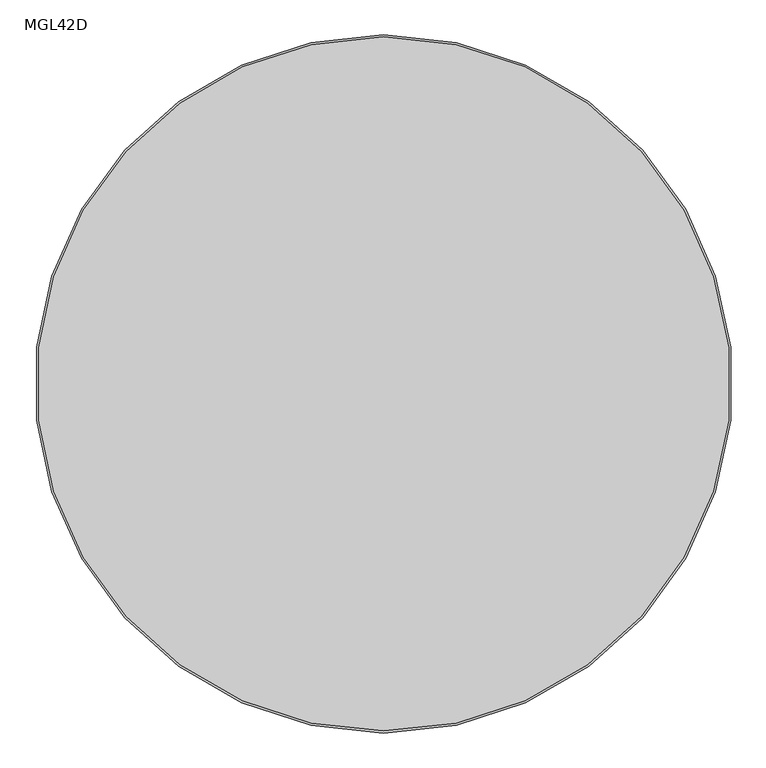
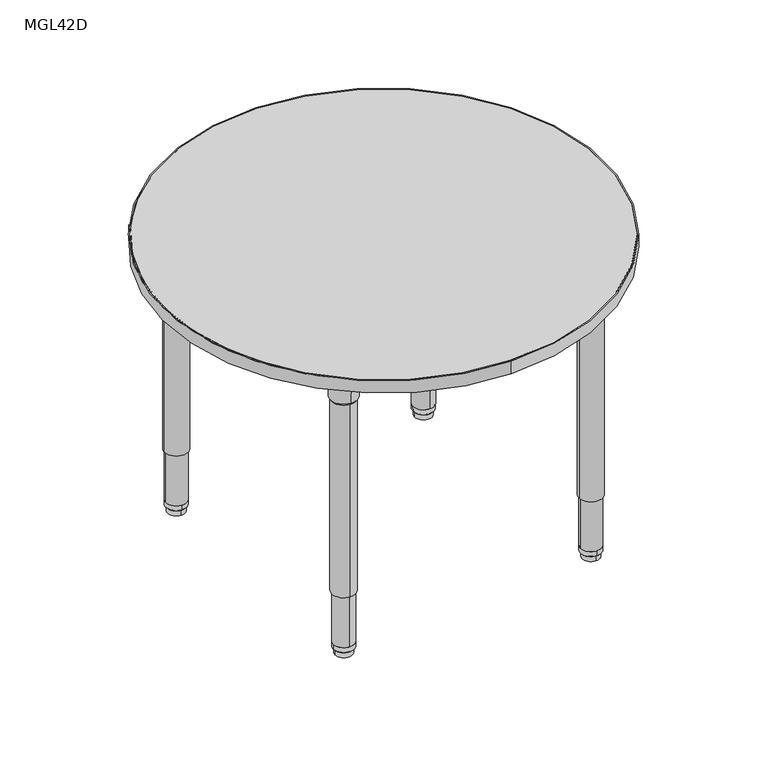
"""IFC4 building model written with IfcOpenShell, lengths in millimetres: furniture geometry, ERG-Mingle-Table-Round : MGL42D."""

from ifc_helpers import new_model, si_unit, point, frame, frame_2d, origin, origin_2d, place, context, project, spatial, polyline, circle_curve, trimmed, segment, composite_curve, outline, extrude, source, transform, mapped, element, save
from ifc_brep_helpers import plane_surface, cylinder_surface, revolved_surface, advanced_brep


def mgl42d_aba82845(model_context):
    return source(origin(), model_context, "Body", "SolidModel", [
        advanced_brep(
        [(303.5152635, -288.8684781, 650.5933069), (363.5858951, -288.8684781, 650.5933069), (333.5505793, -288.8684781, 650.5933069), (301.4066963, -288.8684781, 654.3580481), (365.6944624, -288.8684781, 654.3580481), (300.4712145, -288.8684781, 707.7631458), (366.6299442, -288.8684781, 707.7631458), (297.0216624, -288.8684781, 714.1198315), (370.0794963, -288.8684781, 714.1198315), (297.0216624, -288.8684781, 726.8198315), (370.0794963, -288.8684781, 726.8198315), (333.5505793, -288.8684781, 726.8198315)],
        [
            (0, 1, circle_curve(frame((333.5505793, -288.8684781, 650.5933069), z_axis=(0.0, 0.0, -1.0), x_axis=(1.0, 0.0, 0.0)), 30.0353158)),
            (1, 2),
            (2, 0),
            (1, 0, circle_curve(frame((333.5505793, -288.8684781, 650.5933069), z_axis=(0.0, 0.0, -1.0), x_axis=(1.0, 0.0, 0.0)), 30.0353158)),
            (3, 4, circle_curve(frame((333.5505793, -288.8684781, 654.3580481), z_axis=(0.0, 0.0, -1.0), x_axis=(1.0, 0.0, 0.0)), 32.143883)),
            (4, 1),
            (0, 3),
            (4, 3, circle_curve(frame((333.5505793, -288.8684781, 654.3580481), z_axis=(0.0, 0.0, -1.0), x_axis=(1.0, 0.0, 0.0)), 32.143883)),
            (5, 6, circle_curve(frame((333.5505793, -288.8684781, 707.7631458), z_axis=(0.0, 0.0, -1.0), x_axis=(1.0, 0.0, 0.0)), 33.0793649)),
            (6, 4),
            (3, 5),
            (6, 5, circle_curve(frame((333.5505793, -288.8684781, 707.7631458), z_axis=(0.0, 0.0, -1.0), x_axis=(1.0, 0.0, 0.0)), 33.0793649)),
            (7, 8, circle_curve(frame((333.5505793, -288.8684781, 714.1198315), z_axis=(0.0, 0.0, -1.0), x_axis=(1.0, 0.0, 0.0)), 36.528917)),
            (8, 6),
            (5, 7),
            (8, 7, circle_curve(frame((333.5505793, -288.8684781, 714.1198315), z_axis=(0.0, 0.0, -1.0), x_axis=(1.0, 0.0, 0.0)), 36.528917)),
            (9, 10, circle_curve(frame((333.5505793, -288.8684781, 726.8198315), z_axis=(0.0, 0.0, -1.0), x_axis=(1.0, 0.0, 0.0)), 36.528917)),
            (10, 8),
            (7, 9),
            (10, 9, circle_curve(frame((333.5505793, -288.8684781, 726.8198315), z_axis=(0.0, 0.0, -1.0), x_axis=(1.0, 0.0, 0.0)), 36.528917)),
            (11, 10),
            (9, 11),
        ],
        [
            plane_surface(frame((333.5505793, -288.8684781, 650.5933069), z_axis=(0.0, 0.0, -1.0), x_axis=(1.0, 0.0, 0.0))),
            revolved_surface(polyline([(363.5858951, -288.8684781, 650.5933069), (365.6944624, -288.8684781, 654.3580481)]), (333.5505793, -288.8684781, 726.8198315), (0.0, 0.0, 1.0)),
            revolved_surface(polyline([(365.6944624, -288.8684781, 654.3580481), (366.6299442, -288.8684781, 707.7631458)]), (333.5505793, -288.8684781, 726.8198315), (0.0, 0.0, 1.0)),
            revolved_surface(polyline([(366.6299442, -288.8684781, 707.7631458), (370.0794963, -288.8684781, 714.1198315)]), (333.5505793, -288.8684781, 726.8198315), (0.0, 0.0, 1.0)),
            cylinder_surface(frame((333.5505793, -288.8684781, 726.8198315), z_axis=(0.0, 0.0, 1.0), x_axis=(1.0, 0.0, 0.0)), 36.528917),
            plane_surface(frame((333.5505793, -288.8684781, 726.8198315), z_axis=(0.0, 0.0, 1.0), x_axis=(1.0, 0.0, 0.0))),
        ],
        [
            (0, [[1, 2, 3]]),
            (0, [[4, -3, -2]]),
            (1, [[5, 6, -1, 7]]),
            (1, [[8, -7, -4, -6]]),
            (2, [[9, 10, -5, 11]]),
            (2, [[12, -11, -8, -10]]),
            (3, [[13, 14, -9, 15]]),
            (3, [[16, -15, -12, -14]]),
            (4, [[17, 18, -13, 19]]),
            (4, [[20, -19, -16, -18]]),
            (5, [[21, -17, 22]]),
            (5, [[-22, -20, -21]]),
        ],
    ),
        extrude(outline(composite_curve([segment(polyline([(379.4243473, -206.2908207), (379.4243473, -320.0168535)]), True, "CONTINUOUS"), segment(trimmed(circle_curve(frame_2d((363.5493473, -320.0168535)), 15.875), [point((379.4243473, -320.0168535))], [point((363.5493473, -335.8918535))], False, "CARTESIAN"), True, "CONTINUOUS"), segment(polyline([(363.5493473, -335.8918535), (249.8369998, -335.8918535)]), True, "CONTINUOUS"), segment(trimmed(circle_curve(frame_2d((249.8369998, -323.1918535)), 12.7), [point((249.8369998, -335.8918535))], [point((237.1997717, -321.9307175))], False, "CARTESIAN"), True, "CONTINUOUS"), segment(trimmed(circle_curve(frame_2d((379.699187, -336.1514898)), 143.2072406), [point((237.1997717, -321.9307175))], [point((365.4617319, -193.6537402))], False, "CARTESIAN"), True, "CONTINUOUS"), segment(trimmed(circle_curve(frame_2d((366.7243473, -206.2908207)), 12.7), [point((365.4617319, -193.6537402))], [point((379.4243473, -206.2908207))], False, "CARTESIAN"), True, "CONTINUOUS")], self_intersect=False)), frame((0.0, 0.0, 726.8198315), z_axis=(0.0, 0.0, 1.0), x_axis=(1.0, 0.0, 0.0)), (0.0, 0.0, 1.0), 3.4301685),
        extrude(outline(composite_curve([segment(trimmed(circle_curve(frame_2d((333.5505793, -288.8684781)), 28.575), [point((362.1255793, -288.8684781))], [point((304.9755793, -288.8684781))], False, "CARTESIAN"), True, "CONTINUOUS"), segment(trimmed(circle_curve(frame_2d((333.5505793, -288.8684781)), 28.575), [point((304.9755793, -288.8684781))], [point((362.1255793, -288.8684781))], False, "CARTESIAN"), True, "CONTINUOUS")], self_intersect=False)), frame((0.0, 0.0, 158.3876979), z_axis=(0.0, 0.0, 1.0), x_axis=(1.0, 0.0, 0.0)), (0.0, 0.0, 1.0), 495.4089866),
        extrude(outline(composite_curve([segment(trimmed(circle_curve(frame_2d((333.5505793, -288.8684781)), 25.4), [point((358.9505793, -288.8684781))], [point((308.1505793, -288.8684781))], False, "CARTESIAN"), True, "CONTINUOUS"), segment(trimmed(circle_curve(frame_2d((333.5505793, -288.8684781)), 25.4), [point((308.1505793, -288.8684781))], [point((358.9505793, -288.8684781))], False, "CARTESIAN"), True, "CONTINUOUS")], self_intersect=False)), frame((0.0, 0.0, 28.9580435), z_axis=(0.0, 0.0, 1.0), x_axis=(1.0, 0.0, 0.0)), (0.0, 0.0, 1.0), 176.7049119),
        advanced_brep(
        [(333.5505793, -263.6334677, 28.9580185), (333.5505793, -314.1034885, 28.9580185), (333.5505793, -288.8684781, 28.9580185), (333.5505793, -263.7692391, 16.3032949), (333.5505793, -313.9677171, 16.3032949), (333.5505793, -265.2845399, 14.7291007), (333.5505793, -312.4524162, 14.7291007), (333.5505793, -267.7276203, 14.7291007), (333.5505793, -310.0093359, 14.7291007), (333.5505793, -267.9206117, 0.0), (333.5505793, -309.8163444, 0.0), (333.5505793, -288.8684781, 0.0)],
        [
            (0, 1, circle_curve(frame((333.5505793, -288.8684781, 28.9580185), z_axis=(0.0, 0.0, 1.0), x_axis=(0.0, -1.0, 0.0)), 25.2350104)),
            (1, 2),
            (2, 0),
            (1, 0, circle_curve(frame((333.5505793, -288.8684781, 28.9580185), z_axis=(0.0, 0.0, 1.0), x_axis=(0.0, -1.0, 0.0)), 25.2350104)),
            (3, 4, circle_curve(frame((333.5505793, -288.8684781, 16.3032949), z_axis=(0.0, 0.0, 1.0), x_axis=(0.0, -1.0, 0.0)), 25.099239)),
            (4, 1),
            (0, 3),
            (4, 3, circle_curve(frame((333.5505793, -288.8684781, 16.3032949), z_axis=(0.0, 0.0, 1.0), x_axis=(0.0, -1.0, 0.0)), 25.099239)),
            (5, 6, circle_curve(frame((333.5505793, -288.8684781, 14.7291007), z_axis=(0.0, 0.0, 1.0), x_axis=(0.0, -1.0, 0.0)), 23.5839381)),
            (6, 4),
            (3, 5),
            (6, 5, circle_curve(frame((333.5505793, -288.8684781, 14.7291007), z_axis=(0.0, 0.0, 1.0), x_axis=(0.0, -1.0, 0.0)), 23.5839381)),
            (7, 8, circle_curve(frame((333.5505793, -288.8684781, 14.7291007), z_axis=(0.0, 0.0, 1.0), x_axis=(0.0, -1.0, 0.0)), 21.1408578)),
            (8, 6),
            (5, 7),
            (8, 7, circle_curve(frame((333.5505793, -288.8684781, 14.7291007), z_axis=(0.0, 0.0, 1.0), x_axis=(0.0, -1.0, 0.0)), 21.1408578)),
            (9, 10, circle_curve(frame((333.5505793, -288.8684781, 0.0), z_axis=(0.0, 0.0, 1.0), x_axis=(0.0, -1.0, 0.0)), 20.9478664)),
            (10, 8),
            (7, 9),
            (10, 9, circle_curve(frame((333.5505793, -288.8684781, 0.0), z_axis=(0.0, 0.0, 1.0), x_axis=(0.0, -1.0, 0.0)), 20.9478664)),
            (11, 10),
            (9, 11),
        ],
        [
            plane_surface(frame((333.5505793, -288.8684781, 28.9580185), z_axis=(0.0, 0.0, 1.0), x_axis=(0.0, -1.0, 0.0))),
            revolved_surface(polyline([(333.5505793, -314.1034885, 28.9580185), (333.5505793, -313.9677171, 16.3032949)]), (333.5505793, -288.8684781, 0.0), (0.0, 0.0, -1.0)),
            revolved_surface(polyline([(333.5505793, -313.9677171, 16.3032949), (333.5505793, -312.4524162, 14.7291007)]), (333.5505793, -288.8684781, 0.0), (0.0, 0.0, -1.0)),
            plane_surface(frame((333.5505793, -288.8684781, 14.7291007), z_axis=(0.0, 0.0, -1.0), x_axis=(0.0, -1.0, 0.0))),
            revolved_surface(polyline([(333.5505793, -310.0093359, 14.7291007), (333.5505793, -309.8163444, 0.0)]), (333.5505793, -288.8684781, 0.0), (0.0, 0.0, -1.0)),
            plane_surface(frame((333.5505793, -288.8684781, 0.0), z_axis=(0.0, 0.0, -1.0), x_axis=(0.0, -1.0, 0.0))),
        ],
        [
            (0, [[1, 2, 3]]),
            (0, [[4, -3, -2]]),
            (1, [[5, 6, -1, 7]]),
            (1, [[8, -7, -4, -6]]),
            (2, [[9, 10, -5, 11]]),
            (2, [[12, -11, -8, -10]]),
            (3, [[13, 14, -9, 15]]),
            (3, [[16, -15, -12, -14]]),
            (4, [[17, 18, -13, 19]]),
            (4, [[20, -19, -16, -18]]),
            (5, [[21, -17, 22]]),
            (5, [[-22, -20, -21]]),
        ],
    ),
        advanced_brep(
        [(-288.8684781, -303.5152635, 650.5933069), (-288.8684781, -363.5858951, 650.5933069), (-288.8684781, -333.5505793, 650.5933069), (-288.8684781, -301.4066963, 654.3580481), (-288.8684781, -365.6944624, 654.3580481), (-288.8684781, -300.4712145, 707.7631458), (-288.8684781, -366.6299442, 707.7631458), (-288.8684781, -297.0216624, 714.1198315), (-288.8684781, -370.0794963, 714.1198315), (-288.8684781, -297.0216624, 726.8198315), (-288.8684781, -370.0794963, 726.8198315), (-288.8684781, -333.5505793, 726.8198315)],
        [
            (0, 1, circle_curve(frame((-288.8684781, -333.5505793, 650.5933069), z_axis=(0.0, 0.0, -1.0), x_axis=(0.0, -1.0, 0.0)), 30.0353158)),
            (1, 2),
            (2, 0),
            (1, 0, circle_curve(frame((-288.8684781, -333.5505793, 650.5933069), z_axis=(0.0, 0.0, -1.0), x_axis=(0.0, -1.0, 0.0)), 30.0353158)),
            (3, 4, circle_curve(frame((-288.8684781, -333.5505793, 654.3580481), z_axis=(0.0, 0.0, -1.0), x_axis=(0.0, -1.0, 0.0)), 32.143883)),
            (4, 1),
            (0, 3),
            (4, 3, circle_curve(frame((-288.8684781, -333.5505793, 654.3580481), z_axis=(0.0, 0.0, -1.0), x_axis=(0.0, -1.0, 0.0)), 32.143883)),
            (5, 6, circle_curve(frame((-288.8684781, -333.5505793, 707.7631458), z_axis=(0.0, 0.0, -1.0), x_axis=(0.0, -1.0, 0.0)), 33.0793649)),
            (6, 4),
            (3, 5),
            (6, 5, circle_curve(frame((-288.8684781, -333.5505793, 707.7631458), z_axis=(0.0, 0.0, -1.0), x_axis=(0.0, -1.0, 0.0)), 33.0793649)),
            (7, 8, circle_curve(frame((-288.8684781, -333.5505793, 714.1198315), z_axis=(0.0, 0.0, -1.0), x_axis=(0.0, -1.0, 0.0)), 36.528917)),
            (8, 6),
            (5, 7),
            (8, 7, circle_curve(frame((-288.8684781, -333.5505793, 714.1198315), z_axis=(0.0, 0.0, -1.0), x_axis=(0.0, -1.0, 0.0)), 36.528917)),
            (9, 10, circle_curve(frame((-288.8684781, -333.5505793, 726.8198315), z_axis=(0.0, 0.0, -1.0), x_axis=(0.0, -1.0, 0.0)), 36.528917)),
            (10, 8),
            (7, 9),
            (10, 9, circle_curve(frame((-288.8684781, -333.5505793, 726.8198315), z_axis=(0.0, 0.0, -1.0), x_axis=(0.0, -1.0, 0.0)), 36.528917)),
            (11, 10),
            (9, 11),
        ],
        [
            plane_surface(frame((-288.8684781, -333.5505793, 650.5933069), z_axis=(0.0, 0.0, -1.0), x_axis=(0.0, -1.0, 0.0))),
            revolved_surface(polyline([(-288.8684781, -363.5858951, 650.5933069), (-288.8684781, -365.6944624, 654.3580481)]), (-288.8684781, -333.5505793, 726.8198315), (0.0, 0.0, 1.0)),
            revolved_surface(polyline([(-288.8684781, -365.6944624, 654.3580481), (-288.8684781, -366.6299442, 707.7631458)]), (-288.8684781, -333.5505793, 726.8198315), (0.0, 0.0, 1.0)),
            revolved_surface(polyline([(-288.8684781, -366.6299442, 707.7631458), (-288.8684781, -370.0794963, 714.1198315)]), (-288.8684781, -333.5505793, 726.8198315), (0.0, 0.0, 1.0)),
            cylinder_surface(frame((-288.8684781, -333.5505793, 726.8198315), z_axis=(0.0, 0.0, 1.0), x_axis=(0.0, -1.0, 0.0)), 36.528917),
            plane_surface(frame((-288.8684781, -333.5505793, 726.8198315), z_axis=(0.0, 0.0, 1.0), x_axis=(0.0, -1.0, 0.0))),
        ],
        [
            (0, [[1, 2, 3]]),
            (0, [[4, -3, -2]]),
            (1, [[5, 6, -1, 7]]),
            (1, [[8, -7, -4, -6]]),
            (2, [[9, 10, -5, 11]]),
            (2, [[12, -11, -8, -10]]),
            (3, [[13, 14, -9, 15]]),
            (3, [[16, -15, -12, -14]]),
            (4, [[17, 18, -13, 19]]),
            (4, [[20, -19, -16, -18]]),
            (5, [[21, -17, 22]]),
            (5, [[-22, -20, -21]]),
        ],
    ),
        extrude(outline(composite_curve([segment(polyline([(-206.2908207, -379.4243473), (-320.0168535, -379.4243473)]), True, "CONTINUOUS"), segment(trimmed(circle_curve(frame_2d((-320.0168535, -363.5493473)), 15.875), [point((-320.0168535, -379.4243473))], [point((-335.8918535, -363.5493473))], False, "CARTESIAN"), True, "CONTINUOUS"), segment(polyline([(-335.8918535, -363.5493473), (-335.8918535, -249.8369998)]), True, "CONTINUOUS"), segment(trimmed(circle_curve(frame_2d((-323.1918535, -249.8369998)), 12.7), [point((-335.8918535, -249.8369998))], [point((-321.9307175, -237.1997717))], False, "CARTESIAN"), True, "CONTINUOUS"), segment(trimmed(circle_curve(frame_2d((-336.1514898, -379.699187)), 143.2072406), [point((-321.9307175, -237.1997717))], [point((-193.6537402, -365.4617319))], False, "CARTESIAN"), True, "CONTINUOUS"), segment(trimmed(circle_curve(frame_2d((-206.2908207, -366.7243473)), 12.7), [point((-193.6537402, -365.4617319))], [point((-206.2908207, -379.4243473))], False, "CARTESIAN"), True, "CONTINUOUS")], self_intersect=False)), frame((0.0, 0.0, 726.8198315), z_axis=(0.0, 0.0, 1.0), x_axis=(1.0, 0.0, 0.0)), (0.0, 0.0, 1.0), 3.4301685),
        extrude(outline(composite_curve([segment(trimmed(circle_curve(frame_2d((-288.8684781, -333.5505793)), 28.575), [point((-288.8684781, -362.1255793))], [point((-288.8684781, -304.9755793))], False, "CARTESIAN"), True, "CONTINUOUS"), segment(trimmed(circle_curve(frame_2d((-288.8684781, -333.5505793)), 28.575), [point((-288.8684781, -304.9755793))], [point((-288.8684781, -362.1255793))], False, "CARTESIAN"), True, "CONTINUOUS")], self_intersect=False)), frame((0.0, 0.0, 158.3876979), z_axis=(0.0, 0.0, 1.0), x_axis=(1.0, 0.0, 0.0)), (0.0, 0.0, 1.0), 495.4089866),
        extrude(outline(composite_curve([segment(trimmed(circle_curve(frame_2d((-288.8684781, -333.5505793)), 25.4), [point((-288.8684781, -358.9505793))], [point((-288.8684781, -308.1505793))], False, "CARTESIAN"), True, "CONTINUOUS"), segment(trimmed(circle_curve(frame_2d((-288.8684781, -333.5505793)), 25.4), [point((-288.8684781, -308.1505793))], [point((-288.8684781, -358.9505793))], False, "CARTESIAN"), True, "CONTINUOUS")], self_intersect=False)), frame((0.0, 0.0, 28.9580435), z_axis=(0.0, 0.0, 1.0), x_axis=(1.0, 0.0, 0.0)), (0.0, 0.0, 1.0), 176.7049119),
        advanced_brep(
        [(-263.6334677, -333.5505793, 28.9580185), (-314.1034885, -333.5505793, 28.9580185), (-288.8684781, -333.5505793, 28.9580185), (-263.7692391, -333.5505793, 16.3032949), (-313.9677171, -333.5505793, 16.3032949), (-265.2845399, -333.5505793, 14.7291007), (-312.4524162, -333.5505793, 14.7291007), (-267.7276203, -333.5505793, 14.7291007), (-310.0093359, -333.5505793, 14.7291007), (-267.9206117, -333.5505793, 0.0), (-309.8163444, -333.5505793, 0.0), (-288.8684781, -333.5505793, 0.0)],
        [
            (0, 1, circle_curve(frame((-288.8684781, -333.5505793, 28.9580185), z_axis=(0.0, 0.0, 1.0), x_axis=(-1.0, 0.0, 0.0)), 25.2350104)),
            (1, 2),
            (2, 0),
            (1, 0, circle_curve(frame((-288.8684781, -333.5505793, 28.9580185), z_axis=(0.0, 0.0, 1.0), x_axis=(-1.0, 0.0, 0.0)), 25.2350104)),
            (3, 4, circle_curve(frame((-288.8684781, -333.5505793, 16.3032949), z_axis=(0.0, 0.0, 1.0), x_axis=(-1.0, 0.0, 0.0)), 25.099239)),
            (4, 1),
            (0, 3),
            (4, 3, circle_curve(frame((-288.8684781, -333.5505793, 16.3032949), z_axis=(0.0, 0.0, 1.0), x_axis=(-1.0, 0.0, 0.0)), 25.099239)),
            (5, 6, circle_curve(frame((-288.8684781, -333.5505793, 14.7291007), z_axis=(0.0, 0.0, 1.0), x_axis=(-1.0, 0.0, 0.0)), 23.5839381)),
            (6, 4),
            (3, 5),
            (6, 5, circle_curve(frame((-288.8684781, -333.5505793, 14.7291007), z_axis=(0.0, 0.0, 1.0), x_axis=(-1.0, 0.0, 0.0)), 23.5839381)),
            (7, 8, circle_curve(frame((-288.8684781, -333.5505793, 14.7291007), z_axis=(0.0, 0.0, 1.0), x_axis=(-1.0, 0.0, 0.0)), 21.1408578)),
            (8, 6),
            (5, 7),
            (8, 7, circle_curve(frame((-288.8684781, -333.5505793, 14.7291007), z_axis=(0.0, 0.0, 1.0), x_axis=(-1.0, 0.0, 0.0)), 21.1408578)),
            (9, 10, circle_curve(frame((-288.8684781, -333.5505793, 0.0), z_axis=(0.0, 0.0, 1.0), x_axis=(-1.0, 0.0, 0.0)), 20.9478664)),
            (10, 8),
            (7, 9),
            (10, 9, circle_curve(frame((-288.8684781, -333.5505793, 0.0), z_axis=(0.0, 0.0, 1.0), x_axis=(-1.0, 0.0, 0.0)), 20.9478664)),
            (11, 10),
            (9, 11),
        ],
        [
            plane_surface(frame((-288.8684781, -333.5505793, 28.9580185), z_axis=(0.0, 0.0, 1.0), x_axis=(-1.0, 0.0, 0.0))),
            revolved_surface(polyline([(-314.1034885, -333.5505793, 28.9580185), (-313.9677171, -333.5505793, 16.3032949)]), (-288.8684781, -333.5505793, 0.0), (0.0, 0.0, -1.0)),
            revolved_surface(polyline([(-313.9677171, -333.5505793, 16.3032949), (-312.4524162, -333.5505793, 14.7291007)]), (-288.8684781, -333.5505793, 0.0), (0.0, 0.0, -1.0)),
            plane_surface(frame((-288.8684781, -333.5505793, 14.7291007), z_axis=(0.0, 0.0, -1.0), x_axis=(-1.0, 0.0, 0.0))),
            revolved_surface(polyline([(-310.0093359, -333.5505793, 14.7291007), (-309.8163444, -333.5505793, 0.0)]), (-288.8684781, -333.5505793, 0.0), (0.0, 0.0, -1.0)),
            plane_surface(frame((-288.8684781, -333.5505793, 0.0), z_axis=(0.0, 0.0, -1.0), x_axis=(-1.0, 0.0, 0.0))),
        ],
        [
            (0, [[1, 2, 3]]),
            (0, [[4, -3, -2]]),
            (1, [[5, 6, -1, 7]]),
            (1, [[8, -7, -4, -6]]),
            (2, [[9, 10, -5, 11]]),
            (2, [[12, -11, -8, -10]]),
            (3, [[13, 14, -9, 15]]),
            (3, [[16, -15, -12, -14]]),
            (4, [[17, 18, -13, 19]]),
            (4, [[20, -19, -16, -18]]),
            (5, [[21, -17, 22]]),
            (5, [[-22, -20, -21]]),
        ],
    ),
        advanced_brep(
        [(288.8684781, 303.5152635, 650.5933069), (288.8684781, 363.5858951, 650.5933069), (288.8684781, 333.5505793, 650.5933069), (288.8684781, 301.4066963, 654.3580481), (288.8684781, 365.6944624, 654.3580481), (288.8684781, 300.4712145, 707.7631458), (288.8684781, 366.6299442, 707.7631458), (288.8684781, 297.0216624, 714.1198315), (288.8684781, 370.0794963, 714.1198315), (288.8684781, 297.0216624, 726.8198315), (288.8684781, 370.0794963, 726.8198315), (288.8684781, 333.5505793, 726.8198315)],
        [
            (0, 1, circle_curve(frame((288.8684781, 333.5505793, 650.5933069), z_axis=(0.0, 0.0, -1.0), x_axis=(0.0, 1.0, 0.0)), 30.0353158)),
            (1, 2),
            (2, 0),
            (1, 0, circle_curve(frame((288.8684781, 333.5505793, 650.5933069), z_axis=(0.0, 0.0, -1.0), x_axis=(0.0, 1.0, 0.0)), 30.0353158)),
            (3, 4, circle_curve(frame((288.8684781, 333.5505793, 654.3580481), z_axis=(0.0, 0.0, -1.0), x_axis=(0.0, 1.0, 0.0)), 32.143883)),
            (4, 1),
            (0, 3),
            (4, 3, circle_curve(frame((288.8684781, 333.5505793, 654.3580481), z_axis=(0.0, 0.0, -1.0), x_axis=(0.0, 1.0, 0.0)), 32.143883)),
            (5, 6, circle_curve(frame((288.8684781, 333.5505793, 707.7631458), z_axis=(0.0, 0.0, -1.0), x_axis=(0.0, 1.0, 0.0)), 33.0793649)),
            (6, 4),
            (3, 5),
            (6, 5, circle_curve(frame((288.8684781, 333.5505793, 707.7631458), z_axis=(0.0, 0.0, -1.0), x_axis=(0.0, 1.0, 0.0)), 33.0793649)),
            (7, 8, circle_curve(frame((288.8684781, 333.5505793, 714.1198315), z_axis=(0.0, 0.0, -1.0), x_axis=(0.0, 1.0, 0.0)), 36.528917)),
            (8, 6),
            (5, 7),
            (8, 7, circle_curve(frame((288.8684781, 333.5505793, 714.1198315), z_axis=(0.0, 0.0, -1.0), x_axis=(0.0, 1.0, 0.0)), 36.528917)),
            (9, 10, circle_curve(frame((288.8684781, 333.5505793, 726.8198315), z_axis=(0.0, 0.0, -1.0), x_axis=(0.0, 1.0, 0.0)), 36.528917)),
            (10, 8),
            (7, 9),
            (10, 9, circle_curve(frame((288.8684781, 333.5505793, 726.8198315), z_axis=(0.0, 0.0, -1.0), x_axis=(0.0, 1.0, 0.0)), 36.528917)),
            (11, 10),
            (9, 11),
        ],
        [
            plane_surface(frame((288.8684781, 333.5505793, 650.5933069), z_axis=(0.0, 0.0, -1.0), x_axis=(0.0, 1.0, 0.0))),
            revolved_surface(polyline([(288.8684781, 363.5858951, 650.5933069), (288.8684781, 365.6944624, 654.3580481)]), (288.8684781, 333.5505793, 726.8198315), (0.0, 0.0, 1.0)),
            revolved_surface(polyline([(288.8684781, 365.6944624, 654.3580481), (288.8684781, 366.6299442, 707.7631458)]), (288.8684781, 333.5505793, 726.8198315), (0.0, 0.0, 1.0)),
            revolved_surface(polyline([(288.8684781, 366.6299442, 707.7631458), (288.8684781, 370.0794963, 714.1198315)]), (288.8684781, 333.5505793, 726.8198315), (0.0, 0.0, 1.0)),
            cylinder_surface(frame((288.8684781, 333.5505793, 726.8198315), z_axis=(0.0, 0.0, 1.0), x_axis=(0.0, 1.0, 0.0)), 36.528917),
            plane_surface(frame((288.8684781, 333.5505793, 726.8198315), z_axis=(0.0, 0.0, 1.0), x_axis=(0.0, 1.0, 0.0))),
        ],
        [
            (0, [[1, 2, 3]]),
            (0, [[4, -3, -2]]),
            (1, [[5, 6, -1, 7]]),
            (1, [[8, -7, -4, -6]]),
            (2, [[9, 10, -5, 11]]),
            (2, [[12, -11, -8, -10]]),
            (3, [[13, 14, -9, 15]]),
            (3, [[16, -15, -12, -14]]),
            (4, [[17, 18, -13, 19]]),
            (4, [[20, -19, -16, -18]]),
            (5, [[21, -17, 22]]),
            (5, [[-22, -20, -21]]),
        ],
    ),
        extrude(outline(composite_curve([segment(polyline([(206.2908207, 379.4243473), (320.0168535, 379.4243473)]), True, "CONTINUOUS"), segment(trimmed(circle_curve(frame_2d((320.0168535, 363.5493473)), 15.875), [point((320.0168535, 379.4243473))], [point((335.8918535, 363.5493473))], False, "CARTESIAN"), True, "CONTINUOUS"), segment(polyline([(335.8918535, 363.5493473), (335.8918535, 249.8369998)]), True, "CONTINUOUS"), segment(trimmed(circle_curve(frame_2d((323.1918535, 249.8369998)), 12.7), [point((335.8918535, 249.8369998))], [point((321.9307175, 237.1997717))], False, "CARTESIAN"), True, "CONTINUOUS"), segment(trimmed(circle_curve(frame_2d((336.1514898, 379.699187)), 143.2072406), [point((321.9307175, 237.1997717))], [point((193.6537402, 365.4617319))], False, "CARTESIAN"), True, "CONTINUOUS"), segment(trimmed(circle_curve(frame_2d((206.2908207, 366.7243473)), 12.7), [point((193.6537402, 365.4617319))], [point((206.2908207, 379.4243473))], False, "CARTESIAN"), True, "CONTINUOUS")], self_intersect=False)), frame((0.0, 0.0, 726.8198315), z_axis=(0.0, 0.0, 1.0), x_axis=(1.0, 0.0, 0.0)), (0.0, 0.0, 1.0), 3.4301685),
        extrude(outline(composite_curve([segment(trimmed(circle_curve(frame_2d((288.8684781, 333.5505793)), 28.575), [point((288.8684781, 362.1255793))], [point((288.8684781, 304.9755793))], False, "CARTESIAN"), True, "CONTINUOUS"), segment(trimmed(circle_curve(frame_2d((288.8684781, 333.5505793)), 28.575), [point((288.8684781, 304.9755793))], [point((288.8684781, 362.1255793))], False, "CARTESIAN"), True, "CONTINUOUS")], self_intersect=False)), frame((0.0, 0.0, 158.3876979), z_axis=(0.0, 0.0, 1.0), x_axis=(1.0, 0.0, 0.0)), (0.0, 0.0, 1.0), 495.4089866),
        extrude(outline(composite_curve([segment(trimmed(circle_curve(frame_2d((288.8684781, 333.5505793)), 25.4), [point((288.8684781, 358.9505793))], [point((288.8684781, 308.1505793))], False, "CARTESIAN"), True, "CONTINUOUS"), segment(trimmed(circle_curve(frame_2d((288.8684781, 333.5505793)), 25.4), [point((288.8684781, 308.1505793))], [point((288.8684781, 358.9505793))], False, "CARTESIAN"), True, "CONTINUOUS")], self_intersect=False)), frame((0.0, 0.0, 28.9580435), z_axis=(0.0, 0.0, 1.0), x_axis=(1.0, 0.0, 0.0)), (0.0, 0.0, 1.0), 176.7049119),
        advanced_brep(
        [(263.6334677, 333.5505793, 28.9580185), (314.1034885, 333.5505793, 28.9580185), (288.8684781, 333.5505793, 28.9580185), (263.7692391, 333.5505793, 16.3032949), (313.9677171, 333.5505793, 16.3032949), (265.2845399, 333.5505793, 14.7291007), (312.4524162, 333.5505793, 14.7291007), (267.7276203, 333.5505793, 14.7291007), (310.0093359, 333.5505793, 14.7291007), (267.9206117, 333.5505793, 0.0), (309.8163444, 333.5505793, 0.0), (288.8684781, 333.5505793, 0.0)],
        [
            (0, 1, circle_curve(frame((288.8684781, 333.5505793, 28.9580185), z_axis=(0.0, 0.0, 1.0), x_axis=(1.0, 0.0, 0.0)), 25.2350104)),
            (1, 2),
            (2, 0),
            (1, 0, circle_curve(frame((288.8684781, 333.5505793, 28.9580185), z_axis=(0.0, 0.0, 1.0), x_axis=(1.0, 0.0, 0.0)), 25.2350104)),
            (3, 4, circle_curve(frame((288.8684781, 333.5505793, 16.3032949), z_axis=(0.0, 0.0, 1.0), x_axis=(1.0, 0.0, 0.0)), 25.099239)),
            (4, 1),
            (0, 3),
            (4, 3, circle_curve(frame((288.8684781, 333.5505793, 16.3032949), z_axis=(0.0, 0.0, 1.0), x_axis=(1.0, 0.0, 0.0)), 25.099239)),
            (5, 6, circle_curve(frame((288.8684781, 333.5505793, 14.7291007), z_axis=(0.0, 0.0, 1.0), x_axis=(1.0, 0.0, 0.0)), 23.5839381)),
            (6, 4),
            (3, 5),
            (6, 5, circle_curve(frame((288.8684781, 333.5505793, 14.7291007), z_axis=(0.0, 0.0, 1.0), x_axis=(1.0, 0.0, 0.0)), 23.5839381)),
            (7, 8, circle_curve(frame((288.8684781, 333.5505793, 14.7291007), z_axis=(0.0, 0.0, 1.0), x_axis=(1.0, 0.0, 0.0)), 21.1408578)),
            (8, 6),
            (5, 7),
            (8, 7, circle_curve(frame((288.8684781, 333.5505793, 14.7291007), z_axis=(0.0, 0.0, 1.0), x_axis=(1.0, 0.0, 0.0)), 21.1408578)),
            (9, 10, circle_curve(frame((288.8684781, 333.5505793, 0.0), z_axis=(0.0, 0.0, 1.0), x_axis=(1.0, 0.0, 0.0)), 20.9478664)),
            (10, 8),
            (7, 9),
            (10, 9, circle_curve(frame((288.8684781, 333.5505793, 0.0), z_axis=(0.0, 0.0, 1.0), x_axis=(1.0, 0.0, 0.0)), 20.9478664)),
            (11, 10),
            (9, 11),
        ],
        [
            plane_surface(frame((288.8684781, 333.5505793, 28.9580185), z_axis=(0.0, 0.0, 1.0), x_axis=(1.0, 0.0, 0.0))),
            revolved_surface(polyline([(314.1034885, 333.5505793, 28.9580185), (313.9677171, 333.5505793, 16.3032949)]), (288.8684781, 333.5505793, 0.0), (0.0, 0.0, -1.0)),
            revolved_surface(polyline([(313.9677171, 333.5505793, 16.3032949), (312.4524162, 333.5505793, 14.7291007)]), (288.8684781, 333.5505793, 0.0), (0.0, 0.0, -1.0)),
            plane_surface(frame((288.8684781, 333.5505793, 14.7291007), z_axis=(0.0, 0.0, -1.0), x_axis=(1.0, 0.0, 0.0))),
            revolved_surface(polyline([(310.0093359, 333.5505793, 14.7291007), (309.8163444, 333.5505793, 0.0)]), (288.8684781, 333.5505793, 0.0), (0.0, 0.0, -1.0)),
            plane_surface(frame((288.8684781, 333.5505793, 0.0), z_axis=(0.0, 0.0, -1.0), x_axis=(1.0, 0.0, 0.0))),
        ],
        [
            (0, [[1, 2, 3]]),
            (0, [[4, -3, -2]]),
            (1, [[5, 6, -1, 7]]),
            (1, [[8, -7, -4, -6]]),
            (2, [[9, 10, -5, 11]]),
            (2, [[12, -11, -8, -10]]),
            (3, [[13, 14, -9, 15]]),
            (3, [[16, -15, -12, -14]]),
            (4, [[17, 18, -13, 19]]),
            (4, [[20, -19, -16, -18]]),
            (5, [[21, -17, 22]]),
            (5, [[-22, -20, -21]]),
        ],
    ),
        advanced_brep(
        [(-303.5152635, 288.8684781, 650.5933069), (-363.5858951, 288.8684781, 650.5933069), (-333.5505793, 288.8684781, 650.5933069), (-301.4066963, 288.8684781, 654.3580481), (-365.6944624, 288.8684781, 654.3580481), (-300.4712145, 288.8684781, 707.7631458), (-366.6299442, 288.8684781, 707.7631458), (-297.0216624, 288.8684781, 714.1198315), (-370.0794963, 288.8684781, 714.1198315), (-297.0216624, 288.8684781, 726.8198315), (-370.0794963, 288.8684781, 726.8198315), (-333.5505793, 288.8684781, 726.8198315)],
        [
            (0, 1, circle_curve(frame((-333.5505793, 288.8684781, 650.5933069), z_axis=(0.0, 0.0, -1.0), x_axis=(-1.0, 0.0, 0.0)), 30.0353158)),
            (1, 2),
            (2, 0),
            (1, 0, circle_curve(frame((-333.5505793, 288.8684781, 650.5933069), z_axis=(0.0, 0.0, -1.0), x_axis=(-1.0, 0.0, 0.0)), 30.0353158)),
            (3, 4, circle_curve(frame((-333.5505793, 288.8684781, 654.3580481), z_axis=(0.0, 0.0, -1.0), x_axis=(-1.0, 0.0, 0.0)), 32.143883)),
            (4, 1),
            (0, 3),
            (4, 3, circle_curve(frame((-333.5505793, 288.8684781, 654.3580481), z_axis=(0.0, 0.0, -1.0), x_axis=(-1.0, 0.0, 0.0)), 32.143883)),
            (5, 6, circle_curve(frame((-333.5505793, 288.8684781, 707.7631458), z_axis=(0.0, 0.0, -1.0), x_axis=(-1.0, 0.0, 0.0)), 33.0793649)),
            (6, 4),
            (3, 5),
            (6, 5, circle_curve(frame((-333.5505793, 288.8684781, 707.7631458), z_axis=(0.0, 0.0, -1.0), x_axis=(-1.0, 0.0, 0.0)), 33.0793649)),
            (7, 8, circle_curve(frame((-333.5505793, 288.8684781, 714.1198315), z_axis=(0.0, 0.0, -1.0), x_axis=(-1.0, 0.0, 0.0)), 36.528917)),
            (8, 6),
            (5, 7),
            (8, 7, circle_curve(frame((-333.5505793, 288.8684781, 714.1198315), z_axis=(0.0, 0.0, -1.0), x_axis=(-1.0, 0.0, 0.0)), 36.528917)),
            (9, 10, circle_curve(frame((-333.5505793, 288.8684781, 726.8198315), z_axis=(0.0, 0.0, -1.0), x_axis=(-1.0, 0.0, 0.0)), 36.528917)),
            (10, 8),
            (7, 9),
            (10, 9, circle_curve(frame((-333.5505793, 288.8684781, 726.8198315), z_axis=(0.0, 0.0, -1.0), x_axis=(-1.0, 0.0, 0.0)), 36.528917)),
            (11, 10),
            (9, 11),
        ],
        [
            plane_surface(frame((-333.5505793, 288.8684781, 650.5933069), z_axis=(0.0, 0.0, -1.0), x_axis=(-1.0, 0.0, 0.0))),
            revolved_surface(polyline([(-363.5858951, 288.8684781, 650.5933069), (-365.6944624, 288.8684781, 654.3580481)]), (-333.5505793, 288.8684781, 726.8198315), (0.0, 0.0, 1.0)),
            revolved_surface(polyline([(-365.6944624, 288.8684781, 654.3580481), (-366.6299442, 288.8684781, 707.7631458)]), (-333.5505793, 288.8684781, 726.8198315), (0.0, 0.0, 1.0)),
            revolved_surface(polyline([(-366.6299442, 288.8684781, 707.7631458), (-370.0794963, 288.8684781, 714.1198315)]), (-333.5505793, 288.8684781, 726.8198315), (0.0, 0.0, 1.0)),
            cylinder_surface(frame((-333.5505793, 288.8684781, 726.8198315), z_axis=(0.0, 0.0, 1.0), x_axis=(-1.0, 0.0, 0.0)), 36.528917),
            plane_surface(frame((-333.5505793, 288.8684781, 726.8198315), z_axis=(0.0, 0.0, 1.0), x_axis=(-1.0, 0.0, 0.0))),
        ],
        [
            (0, [[1, 2, 3]]),
            (0, [[4, -3, -2]]),
            (1, [[5, 6, -1, 7]]),
            (1, [[8, -7, -4, -6]]),
            (2, [[9, 10, -5, 11]]),
            (2, [[12, -11, -8, -10]]),
            (3, [[13, 14, -9, 15]]),
            (3, [[16, -15, -12, -14]]),
            (4, [[17, 18, -13, 19]]),
            (4, [[20, -19, -16, -18]]),
            (5, [[21, -17, 22]]),
            (5, [[-22, -20, -21]]),
        ],
    ),
        extrude(outline(composite_curve([segment(polyline([(-379.4243473, 206.2908207), (-379.4243473, 320.0168535)]), True, "CONTINUOUS"), segment(trimmed(circle_curve(frame_2d((-363.5493473, 320.0168535)), 15.875), [point((-379.4243473, 320.0168535))], [point((-363.5493473, 335.8918535))], False, "CARTESIAN"), True, "CONTINUOUS"), segment(polyline([(-363.5493473, 335.8918535), (-249.8369998, 335.8918535)]), True, "CONTINUOUS"), segment(trimmed(circle_curve(frame_2d((-249.8369998, 323.1918535)), 12.7), [point((-249.8369998, 335.8918535))], [point((-237.1997717, 321.9307175))], False, "CARTESIAN"), True, "CONTINUOUS"), segment(trimmed(circle_curve(frame_2d((-379.699187, 336.1514898)), 143.2072406), [point((-237.1997717, 321.9307175))], [point((-365.4617319, 193.6537402))], False, "CARTESIAN"), True, "CONTINUOUS"), segment(trimmed(circle_curve(frame_2d((-366.7243473, 206.2908207)), 12.7), [point((-365.4617319, 193.6537402))], [point((-379.4243473, 206.2908207))], False, "CARTESIAN"), True, "CONTINUOUS")], self_intersect=False)), frame((0.0, 0.0, 726.8198315), z_axis=(0.0, 0.0, 1.0), x_axis=(1.0, 0.0, 0.0)), (0.0, 0.0, 1.0), 3.4301685),
        extrude(outline(composite_curve([segment(trimmed(circle_curve(frame_2d((-333.5505793, 288.8684781)), 28.575), [point((-362.1255793, 288.8684781))], [point((-304.9755793, 288.8684781))], False, "CARTESIAN"), True, "CONTINUOUS"), segment(trimmed(circle_curve(frame_2d((-333.5505793, 288.8684781)), 28.575), [point((-304.9755793, 288.8684781))], [point((-362.1255793, 288.8684781))], False, "CARTESIAN"), True, "CONTINUOUS")], self_intersect=False)), frame((0.0, 0.0, 158.3876979), z_axis=(0.0, 0.0, 1.0), x_axis=(1.0, 0.0, 0.0)), (0.0, 0.0, 1.0), 495.4089866),
        extrude(outline(composite_curve([segment(trimmed(circle_curve(frame_2d((-333.5505793, 288.8684781)), 25.4), [point((-358.9505793, 288.8684781))], [point((-308.1505793, 288.8684781))], False, "CARTESIAN"), True, "CONTINUOUS"), segment(trimmed(circle_curve(frame_2d((-333.5505793, 288.8684781)), 25.4), [point((-308.1505793, 288.8684781))], [point((-358.9505793, 288.8684781))], False, "CARTESIAN"), True, "CONTINUOUS")], self_intersect=False)), frame((0.0, 0.0, 28.9580435), z_axis=(0.0, 0.0, 1.0), x_axis=(1.0, 0.0, 0.0)), (0.0, 0.0, 1.0), 176.7049119),
        advanced_brep(
        [(-333.5505793, 263.6334677, 28.9580185), (-333.5505793, 314.1034885, 28.9580185), (-333.5505793, 288.8684781, 28.9580185), (-333.5505793, 263.7692391, 16.3032949), (-333.5505793, 313.9677171, 16.3032949), (-333.5505793, 265.2845399, 14.7291007), (-333.5505793, 312.4524162, 14.7291007), (-333.5505793, 267.7276203, 14.7291007), (-333.5505793, 310.0093359, 14.7291007), (-333.5505793, 267.9206117, 0.0), (-333.5505793, 309.8163444, 0.0), (-333.5505793, 288.8684781, 0.0)],
        [
            (0, 1, circle_curve(frame((-333.5505793, 288.8684781, 28.9580185), z_axis=(0.0, 0.0, 1.0), x_axis=(0.0, 1.0, 0.0)), 25.2350104)),
            (1, 2),
            (2, 0),
            (1, 0, circle_curve(frame((-333.5505793, 288.8684781, 28.9580185), z_axis=(0.0, 0.0, 1.0), x_axis=(0.0, 1.0, 0.0)), 25.2350104)),
            (3, 4, circle_curve(frame((-333.5505793, 288.8684781, 16.3032949), z_axis=(0.0, 0.0, 1.0), x_axis=(0.0, 1.0, 0.0)), 25.099239)),
            (4, 1),
            (0, 3),
            (4, 3, circle_curve(frame((-333.5505793, 288.8684781, 16.3032949), z_axis=(0.0, 0.0, 1.0), x_axis=(0.0, 1.0, 0.0)), 25.099239)),
            (5, 6, circle_curve(frame((-333.5505793, 288.8684781, 14.7291007), z_axis=(0.0, 0.0, 1.0), x_axis=(0.0, 1.0, 0.0)), 23.5839381)),
            (6, 4),
            (3, 5),
            (6, 5, circle_curve(frame((-333.5505793, 288.8684781, 14.7291007), z_axis=(0.0, 0.0, 1.0), x_axis=(0.0, 1.0, 0.0)), 23.5839381)),
            (7, 8, circle_curve(frame((-333.5505793, 288.8684781, 14.7291007), z_axis=(0.0, 0.0, 1.0), x_axis=(0.0, 1.0, 0.0)), 21.1408578)),
            (8, 6),
            (5, 7),
            (8, 7, circle_curve(frame((-333.5505793, 288.8684781, 14.7291007), z_axis=(0.0, 0.0, 1.0), x_axis=(0.0, 1.0, 0.0)), 21.1408578)),
            (9, 10, circle_curve(frame((-333.5505793, 288.8684781, 0.0), z_axis=(0.0, 0.0, 1.0), x_axis=(0.0, 1.0, 0.0)), 20.9478664)),
            (10, 8),
            (7, 9),
            (10, 9, circle_curve(frame((-333.5505793, 288.8684781, 0.0), z_axis=(0.0, 0.0, 1.0), x_axis=(0.0, 1.0, 0.0)), 20.9478664)),
            (11, 10),
            (9, 11),
        ],
        [
            plane_surface(frame((-333.5505793, 288.8684781, 28.9580185), z_axis=(0.0, 0.0, 1.0), x_axis=(0.0, 1.0, 0.0))),
            revolved_surface(polyline([(-333.5505793, 314.1034885, 28.9580185), (-333.5505793, 313.9677171, 16.3032949)]), (-333.5505793, 288.8684781, 0.0), (0.0, 0.0, -1.0)),
            revolved_surface(polyline([(-333.5505793, 313.9677171, 16.3032949), (-333.5505793, 312.4524162, 14.7291007)]), (-333.5505793, 288.8684781, 0.0), (0.0, 0.0, -1.0)),
            plane_surface(frame((-333.5505793, 288.8684781, 14.7291007), z_axis=(0.0, 0.0, -1.0), x_axis=(0.0, 1.0, 0.0))),
            revolved_surface(polyline([(-333.5505793, 310.0093359, 14.7291007), (-333.5505793, 309.8163444, 0.0)]), (-333.5505793, 288.8684781, 0.0), (0.0, 0.0, -1.0)),
            plane_surface(frame((-333.5505793, 288.8684781, 0.0), z_axis=(0.0, 0.0, -1.0), x_axis=(0.0, 1.0, 0.0))),
        ],
        [
            (0, [[1, 2, 3]]),
            (0, [[4, -3, -2]]),
            (1, [[5, 6, -1, 7]]),
            (1, [[8, -7, -4, -6]]),
            (2, [[9, 10, -5, 11]]),
            (2, [[12, -11, -8, -10]]),
            (3, [[13, 14, -9, 15]]),
            (3, [[16, -15, -12, -14]]),
            (4, [[17, 18, -13, 19]]),
            (4, [[20, -19, -16, -18]]),
            (5, [[21, -17, 22]]),
            (5, [[-22, -20, -21]]),
        ],
    ),
        extrude(outline(composite_curve([segment(trimmed(circle_curve(origin_2d(), 530.225), [point((0.0, -530.225))], [point((0.0, 530.225))], False, "CARTESIAN"), True, "CONTINUOUS"), segment(trimmed(circle_curve(origin_2d(), 530.225), [point((0.0, 530.225))], [point((0.0, -530.225))], False, "CARTESIAN"), True, "CONTINUOUS")], self_intersect=False)), frame((0.0, 0.0, 730.25), z_axis=(0.0, 0.0, 1.0), x_axis=(1.0, 0.0, 0.0)), (0.0, 0.0, 1.0), 31.75),
        extrude(outline(composite_curve([segment(trimmed(circle_curve(origin_2d(), 533.4), [point((0.0, -533.4))], [point((0.0, 533.4))], False, "CARTESIAN"), True, "CONTINUOUS"), segment(trimmed(circle_curve(origin_2d(), 533.4), [point((0.0, 533.4))], [point((0.0, -533.4))], False, "CARTESIAN"), True, "CONTINUOUS")], self_intersect=False), holes=[composite_curve([segment(trimmed(circle_curve(origin_2d(), 530.225), [point((0.0, 530.225))], [point((0.0, -530.225))], True, "CARTESIAN"), True, "CONTINUOUS"), segment(trimmed(circle_curve(origin_2d(), 530.225), [point((0.0, -530.225))], [point((0.0, 530.225))], True, "CARTESIAN"), True, "CONTINUOUS")], self_intersect=False)]), frame((0.0, 0.0, 730.25), z_axis=(0.0, 0.0, 1.0), x_axis=(1.0, 0.0, 0.0)), (0.0, 0.0, 1.0), 31.75),
    ])


if __name__ == "__main__":
    model = new_model("IFC4")
    model_context = context("Model", 3, world=origin())
    ifc_project = project(units=[si_unit("LENGTHUNIT", "METRE", prefix="MILLI")], contexts=[model_context])
    site = spatial("IfcSite", under=ifc_project)
    building = spatial("IfcBuilding", under=site)
    placement = place(None, origin())
    mgl42d_shape = mgl42d_aba82845(model_context)
    element("IfcFurniture", 1, ObjectType="ERG-Mingle-Table-Round : MGL42D", at=placement, inside=building, context=model_context, shape_type="MappedRepresentation", body=[
        mapped(mgl42d_shape, transform((0.0, 0.0, 0.0), x_axis=(1.0, 0.0, 0.0), y_axis=(0.0, 1.0, 0.0), z_axis=(0.0, 0.0, 1.0))),
    ])
    save(model, "model.ifc")
